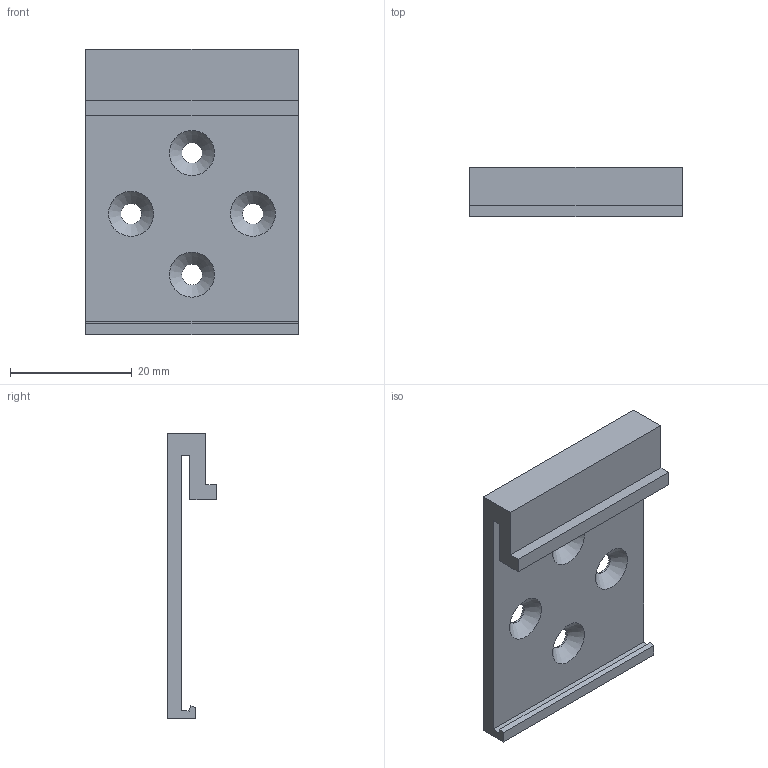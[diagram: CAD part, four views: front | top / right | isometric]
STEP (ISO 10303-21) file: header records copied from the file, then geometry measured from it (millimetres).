
FILE_DESCRIPTION(/* description */ (''),/* implementation_level */ '2;1');
FILE_NAME(/* name */ 'FS1-32装配体-5.stp',/* time_stamp */ '2023-12-20T15:08:39+08:00',/* author */ (''),/* organization */ (''),/* preprocessor_version */ 'ST-DEVELOPER v16',/* originating_system */ 'SIEMENS PLM Software NX 10.0',/* authorisation */ '');
FILE_SCHEMA (('AP203_CONFIGURATION_CONTROLLED_3D_DESIGN_OF_MECHANICAL_PARTS_AND_ASSEMBLIES_MIM_LF { 1 0 10303 403 2 1 2}'));
Length unit declared in the file: millimetre
Products named in the file (1): chao24DC5646xx5k
Bounding box: 35 x 8.1 x 47 mm (x, y, z)
Volume: 5055.4 mm3; surface area: 4875.2 mm2
Topology: 1 solids, 1 shells, 24 faces, 66 edges, 44 vertices
Faces by surface type: plane 16, cylinder 4, cone 4
Full cylindrical faces by diameter (mm): 3.4 x4
Entity records: 794 total; most frequent: CARTESIAN_POINT 119, DIRECTION 116, ORIENTED_EDGE 108, EDGE_CURVE 54, LINE 42, VECTOR 42, EDGE_LOOP 40, VERTEX_POINT 40
